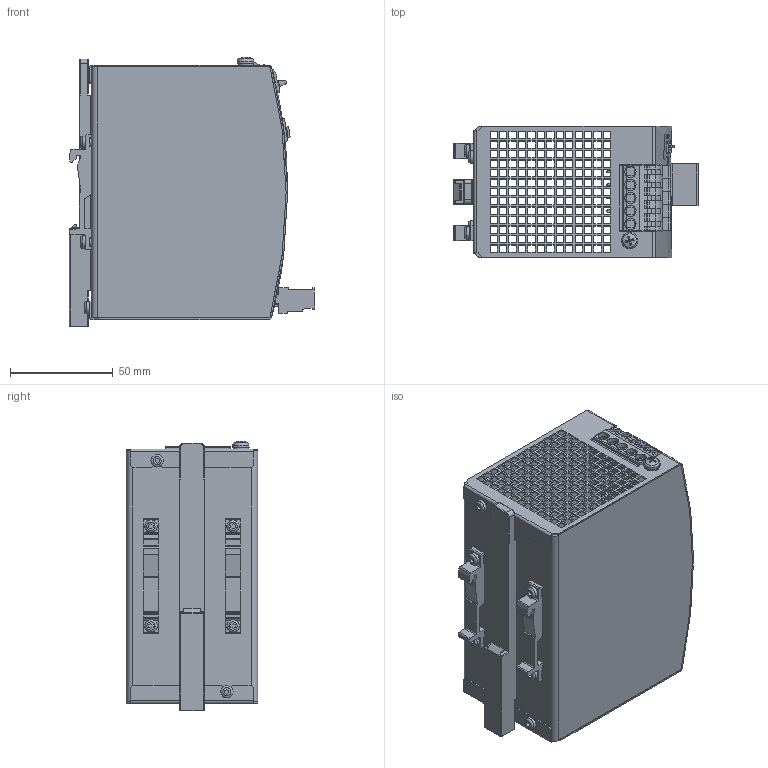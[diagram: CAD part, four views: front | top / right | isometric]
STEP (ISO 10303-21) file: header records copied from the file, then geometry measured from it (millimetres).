
FILE_DESCRIPTION(/* description */ (''),/* implementation_level */ '2;1');
FILE_NAME(/* name */ 'H:\My Documents\POOLP2\Desktop\Modelldaten\md3_uf20_241.stp',/* time_stamp */ '2021-01-08T08:29:11+01:00',/* author */ ('rahns'),/* organization */ (''),/* preprocessor_version */ 'ST-DEVELOPER v18.1',/* originating_system */ 'Autodesk Inventor 2020',/* authorisation */ '');
FILE_SCHEMA (('AUTOMOTIVE_DESIGN { 1 0 10303 214 3 1 1 }'));
Products named in the file (14): 366.00; HOUSING BODY 366.00; HOUSING COVER 366.00; MKT_SLIDER; MKT_T HOLDER1; MKT_SCREW 3x6; MKT_WASHER 4; MKT_SCREW 4x8; MKT_LED GN; MKT_JUMPER BRACKET; CONNECTOR 5P R5; MKT_4P STV60; MKT_JUMPER; MKT-1x4S_270-L1
Assembly tree (19 placements, depth 2):
  366.00
    HOUSING BODY 366.00
    HOUSING COVER 366.00
    MKT_SLIDER
    MKT_T HOLDER1  x2
    MKT_SCREW 3x6  x6
    MKT_WASHER 4
    MKT_SCREW 4x8
    MKT_LED GN
    MKT_JUMPER BRACKET
    CONNECTOR 5P R5
    MKT_4P STV60
    MKT_JUMPER
    MKT-1x4S_270-L1
Bounding box: 119.67 x 64 x 131.47 mm (x, y, z)
Volume: 85312.1 mm3; surface area: 112716 mm2
Topology: 19 solids, 19 shells, 3948 faces, 11064 edges, 7349 vertices
Faces by surface type: plane 2936, bspline 629, cylinder 340, cone 18, torus 16, sphere 9
Full cylindrical faces by diameter (mm): 1 x2, 1.3 x4, 2.45 x2, 3 x10, 3.1 x4, 3.621 x1, 3.75 x4, 3.95 x4, 4 x1, 4.5 x2, 4.6 x1, 5.5 x5, 6 x6
Entity records: 144334 total; most frequent: CARTESIAN_POINT 46972, ORIENTED_EDGE 21360, DIRECTION 16898, EDGE_CURVE 10680, LINE 8248, VECTOR 8248, VERTEX_POINT 7087, EDGE_LOOP 4791
